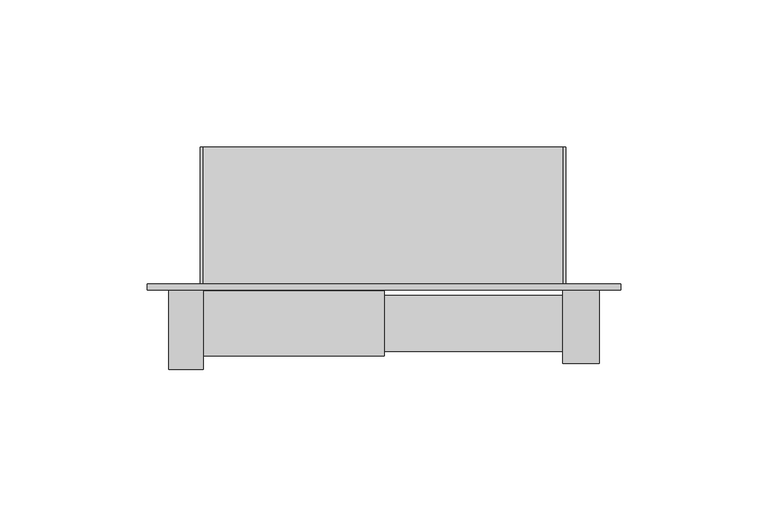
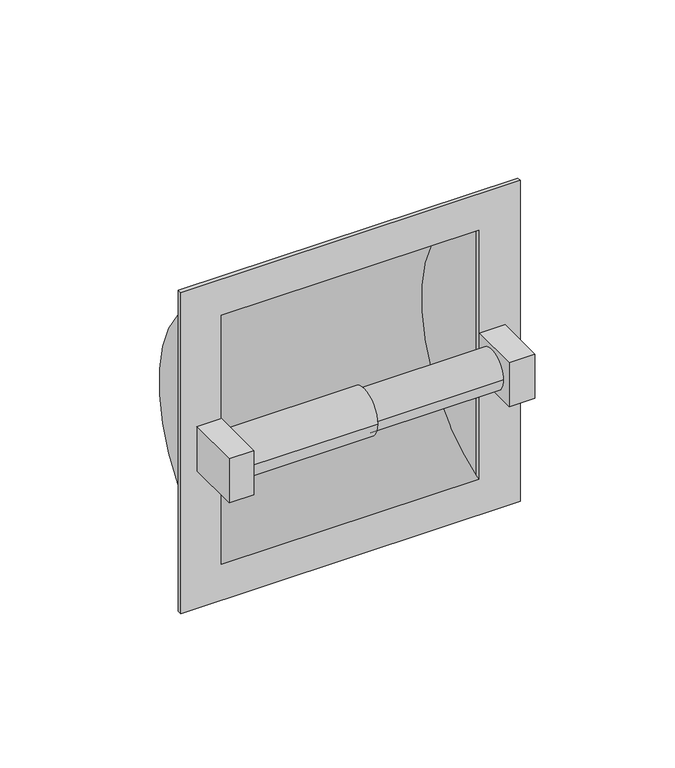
"""IFC4 building model written with IfcOpenShell, lengths in millimetres: proxy geometry, Toilet Roll Dispenser_Metlam_Single_Recessed : 161w x 76d x 161h (ML260S)."""

from ifc_helpers import new_model, si_unit, point, frame, frame_2d, origin, place, context, project, spatial, polyline, circle_curve, trimmed, segment, composite_curve, outline, extrude, source, transform, mapped, element, save
from ifc_brep_helpers import plane_surface, cylinder_surface, revolved_surface, advanced_brep


def specialty_equipment_42fed3f8(model_context):
    return source(origin(), model_context, "Body", "SolidModel", [
        advanced_brep(
        [(60.8073232, -47.0, 521.051686), (60.8073232, -47.0, 648.948314), (60.8073232, -47.0, 647.4824309), (60.8073232, -47.0, 646.8495788), (60.8073232, -47.0, 523.1504212), (60.8073232, -47.0, 522.5175691), (80.5, -49.0, 665.5), (-80.5, -49.0, 665.5), (-80.5, -49.0, 504.5), (80.5, -49.0, 504.5), (60.8073232, -49.0, 522.5389172), (-61.4219695, -49.0, 522.5389172), (-61.4219695, -49.0, 647.4824309), (60.8073232, -49.0, 647.4610828), (-61.4219695, -47.0, 521.051686), (-61.4219695, -47.0, 648.948314), (80.5, -47.0, 665.5), (80.5, -47.0, 504.5), (-80.5, -47.0, 504.5), (-80.5, -47.0, 665.5), (-62.4073232, -47.0, 648.948314), (-62.4073232, -47.0, 521.051686)],
        [
            (0, 1, circle_curve(frame((60.8073232, -67.0041156, 585.0), z_axis=(1.0, 0.0, 0.0), x_axis=(0.0, 0.0, 1.0)), 67.0041156)),
            (1, 2),
            (2, 3),
            (3, 4, circle_curve(frame((60.8073232, -67.0041156, 585.0), z_axis=(-1.0, 0.0, 0.0), x_axis=(0.0, 0.0, 1.0)), 65.0041156)),
            (4, 5),
            (5, 0),
            (6, 7),
            (7, 8),
            (8, 9),
            (9, 6),
            (10, 11),
            (11, 12),
            (12, 13),
            (13, 10),
            (0, 14),
            (14, 15, circle_curve(frame((-61.4219695, -67.0041156, 585.0), z_axis=(1.0, 0.0, 0.0), x_axis=(0.0, 0.0, 1.0)), 67.0041156)),
            (15, 1),
            (12, 11, circle_curve(frame((-61.4219695, -67.0041156, 585.0), z_axis=(-1.0, 0.0, 0.0), x_axis=(0.0, 0.0, 1.0)), 65.0041156)),
            (10, 4, circle_curve(frame((60.8073232, -67.0041156, 585.0), z_axis=(1.0, 0.0, 0.0), x_axis=(0.0, 0.0, 1.0)), 65.0041156)),
            (3, 13, circle_curve(frame((60.8073232, -67.0041156, 585.0), z_axis=(1.0, 0.0, 0.0), x_axis=(0.0, 0.0, 1.0)), 65.0041156)),
            (16, 17),
            (17, 18),
            (18, 19),
            (19, 16),
            (4, 3),
            (15, 20),
            (20, 21),
            (21, 14),
            (6, 16),
            (19, 7),
            (18, 8),
            (17, 9),
            (20, 21, circle_curve(frame((-62.4073232, -67.0041156, 585.0), z_axis=(-1.0, 0.0, 0.0), x_axis=(0.0, 0.0, 1.0)), 67.0041156)),
        ],
        [
            plane_surface(frame((60.8073232, -49.0, 520.4600641), z_axis=(1.0, 0.0, 0.0), x_axis=(0.0, 0.0, -1.0))),
            plane_surface(frame((60.8073232, -49.0, 522.5389172), z_axis=(0.0, -1.0, 0.0), x_axis=(-1.0, 0.0, 0.0))),
            cylinder_surface(frame((-61.4219695, -67.0041156, 585.0), z_axis=(1.0, 0.0, 0.0), x_axis=(0.0, 0.0, 1.0)), 67.0041156),
            revolved_surface(polyline([(-61.4219695, -67.0041156, 650.0041156), (60.8073232, -67.0041156, 650.0041156)]), (-61.4219695, -67.0041156, 585.0), (-1.0, 0.0, 0.0)),
            plane_surface(frame((-80.8073232, -47.0, 665.5), z_axis=(0.0, 1.0, 0.0), x_axis=(1.0, 0.0, 0.0))),
            plane_surface(frame((80.5, -49.0, 665.5), z_axis=(0.0, 0.0, 1.0), x_axis=(0.0, 1.0, 0.0))),
            plane_surface(frame((-80.5, -49.0, 665.5), z_axis=(-1.0, 0.0, 0.0), x_axis=(0.0, 1.0, 0.0))),
            plane_surface(frame((-80.5, -49.0, 504.5), z_axis=(0.0, 0.0, -1.0), x_axis=(0.0, 1.0, 0.0))),
            plane_surface(frame((80.5, -49.0, 504.5), z_axis=(1.0, 0.0, 0.0), x_axis=(0.0, 1.0, 0.0))),
            plane_surface(frame((60.8073232, -49.0, 647.4824309), z_axis=(-1.0, 0.0, 0.0), x_axis=(0.0, 1.0, 0.0))),
            plane_surface(frame((-61.4219695, -49.0, 522.5175691), z_axis=(1.0, 0.0, 0.0), x_axis=(0.0, 1.0, 0.0))),
            plane_surface(frame((-62.4073232, -47.0, 521.051686), z_axis=(-1.0, 0.0, 0.0), x_axis=(0.0, 0.0, 1.0))),
            cylinder_surface(frame((-62.4073232, -67.0041156, 585.0), z_axis=(1.0, 0.0, 0.0), x_axis=(0.0, 0.0, 1.0)), 67.0041156),
        ],
        [
            (0, [[1, 2, 3, 4, 5, 6]]),
            (1, [[7, 8, 9, 10], [11, 12, 13, 14]]),
            (2, [[-1, 15, 16, 17]]),
            (3, [[18, -11, 19, -4, 20, -13]]),
            (4, [[21, 22, 23, 24], [25, -3, -2, -17, 26, 27, 28, -15, -6, -5]]),
            (5, [[-7, 29, -24, 30]]),
            (6, [[-8, -30, -23, 31]]),
            (7, [[-9, -31, -22, 32]]),
            (8, [[-10, -32, -21, -29]]),
            (9, [[-14, -20, -25, -19]]),
            (10, [[-12, -18]]),
            (11, [[33, -27]]),
            (12, [[-33, -26, -16, -28]]),
        ],
    ),
        extrude(outline(composite_curve([segment(trimmed(circle_curve(frame_2d((-67.0041156, 585.0)), 67.0041156), [point((-47.0, 648.948314))], [point((-47.0, 521.051686))], False, "CARTESIAN"), True, "CONTINUOUS"), segment(polyline([(-47.0, 521.051686), (-47.0, 648.948314)]), True, "CONTINUOUS")], self_intersect=False)), frame((60.8073232, 0.0, 0.0), z_axis=(1.0, 0.0, 0.0), x_axis=(0.0, 1.0, 0.0)), (0.0, 0.0, 1.0), 0.9853536),
        extrude(outline(polyline([(-73.1248355, -76.0), (-73.1248355, -49.0), (-61.4219695, -49.0), (-61.4219695, -76.0), (-73.1248355, -76.0)])), frame((0.0, 0.0, 574.0), z_axis=(0.0, 0.0, 1.0), x_axis=(1.0, 0.0, 0.0)), (0.0, 0.0, 1.0), 22.0),
        extrude(outline(polyline([(73.1248355, -49.0), (73.1248355, -74.0), (60.8073232, -74.0), (60.8073232, -49.0), (73.1248355, -49.0)])), frame((0.0, 0.0, 574.0), z_axis=(0.0, 0.0, 1.0), x_axis=(1.0, 0.0, 0.0)), (0.0, 0.0, 1.0), 22.0),
        advanced_brep(
        [(-61.4219695, -49.3201367, 585.0), (-61.4219695, -71.3201367, 585.0), (-61.4219695, -60.3201367, 585.0), (0.0, -49.3201367, 585.0), (0.0, -71.3201367, 585.0), (0.0, -50.8201367, 585.0), (0.0, -69.8201367, 585.0), (60.8073232, -50.8201367, 585.0), (60.8073232, -69.8201367, 585.0), (60.8073232, -60.3201367, 585.0)],
        [
            (0, 1, circle_curve(frame((-61.4219695, -60.3201367, 585.0), z_axis=(-1.0, 0.0, 0.0), x_axis=(0.0, -1.0, 0.0)), 11.0)),
            (1, 2),
            (2, 0),
            (1, 0, circle_curve(frame((-61.4219695, -60.3201367, 585.0), z_axis=(-1.0, 0.0, 0.0), x_axis=(0.0, -1.0, 0.0)), 11.0)),
            (3, 4, circle_curve(frame((0.0, -60.3201367, 585.0), z_axis=(-1.0, 0.0, 0.0), x_axis=(0.0, -1.0, 0.0)), 11.0)),
            (4, 1),
            (0, 3),
            (4, 3, circle_curve(frame((0.0, -60.3201367, 585.0), z_axis=(-1.0, 0.0, 0.0), x_axis=(0.0, -1.0, 0.0)), 11.0)),
            (5, 6, circle_curve(frame((0.0, -60.3201367, 585.0), z_axis=(-1.0, 0.0, 0.0), x_axis=(0.0, -1.0, 0.0)), 9.5)),
            (6, 4),
            (3, 5),
            (6, 5, circle_curve(frame((0.0, -60.3201367, 585.0), z_axis=(-1.0, 0.0, 0.0), x_axis=(0.0, -1.0, 0.0)), 9.5)),
            (7, 8, circle_curve(frame((60.8073232, -60.3201367, 585.0), z_axis=(-1.0, 0.0, 0.0), x_axis=(0.0, -1.0, 0.0)), 9.5)),
            (8, 6),
            (5, 7),
            (8, 7, circle_curve(frame((60.8073232, -60.3201367, 585.0), z_axis=(-1.0, 0.0, 0.0), x_axis=(0.0, -1.0, 0.0)), 9.5)),
            (9, 8),
            (7, 9),
        ],
        [
            plane_surface(frame((-61.4219695, -60.3201367, 585.0), z_axis=(-1.0, 0.0, 0.0), x_axis=(0.0, -1.0, 0.0))),
            cylinder_surface(frame((-17.5, -60.3201367, 585.0), z_axis=(1.0, 0.0, 0.0), x_axis=(0.0, -1.0, 0.0)), 11.0),
            plane_surface(frame((0.0, -60.3201367, 585.0), z_axis=(1.0, 0.0, 0.0), x_axis=(0.0, -1.0, 0.0))),
            cylinder_surface(frame((-17.5, -60.3201367, 585.0), z_axis=(1.0, 0.0, 0.0), x_axis=(0.0, -1.0, 0.0)), 9.5),
            plane_surface(frame((60.8073232, -60.3201367, 585.0), z_axis=(1.0, 0.0, 0.0), x_axis=(0.0, -1.0, 0.0))),
        ],
        [
            (0, [[1, 2, 3]]),
            (0, [[4, -3, -2]]),
            (1, [[5, 6, -1, 7]]),
            (1, [[8, -7, -4, -6]]),
            (2, [[9, 10, -5, 11]]),
            (2, [[12, -11, -8, -10]]),
            (3, [[13, 14, -9, 15]]),
            (3, [[16, -15, -12, -14]]),
            (4, [[17, -13, 18]]),
            (4, [[-18, -16, -17]]),
        ],
    ),
    ])


if __name__ == "__main__":
    model = new_model("IFC4")
    model_context = context("Model", 3, world=origin())
    ifc_project = project(units=[si_unit("LENGTHUNIT", "METRE", prefix="MILLI")], contexts=[model_context])
    site = spatial("IfcSite", under=ifc_project)
    building = spatial("IfcBuilding", under=site)
    placement = place(None, origin())
    specialty_equipment_shape = specialty_equipment_42fed3f8(model_context)
    element("IfcBuildingElementProxy", 1, Name="Toilet Roll Dispenser_Metlam_Single_Recessed : 161w x 76d x 161h (ML260S)", ObjectType="Toilet Roll Dispenser_Metlam_Single_Recessed : 161w x 76d x 161h (ML260S)", at=placement, inside=building, context=model_context, shape_type="MappedRepresentation", body=[
        mapped(specialty_equipment_shape, transform((0.0, 0.0, 0.0), x_axis=(1.0, 0.0, 0.0), y_axis=(0.0, 1.0, 0.0), z_axis=(0.0, 0.0, 1.0))),
    ])
    save(model, "model.ifc")
